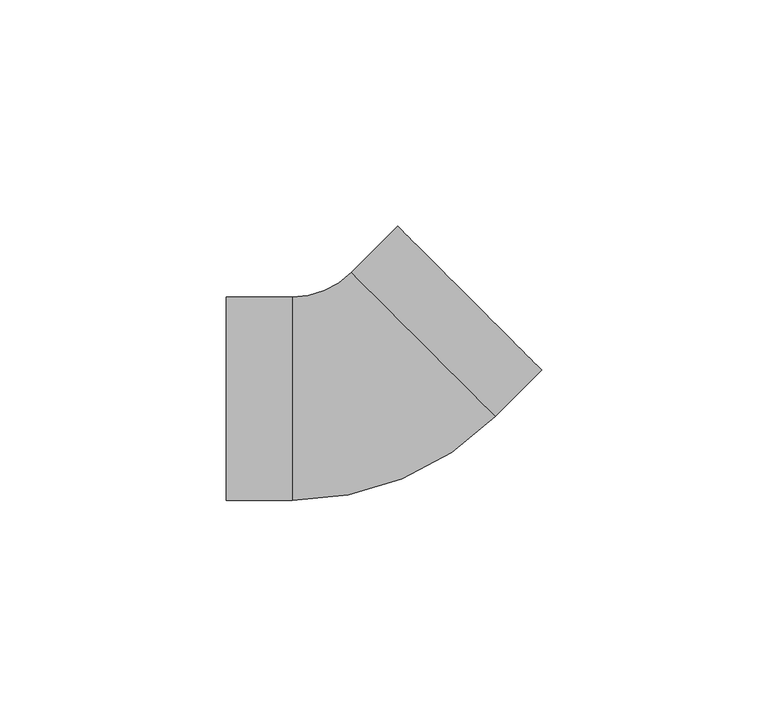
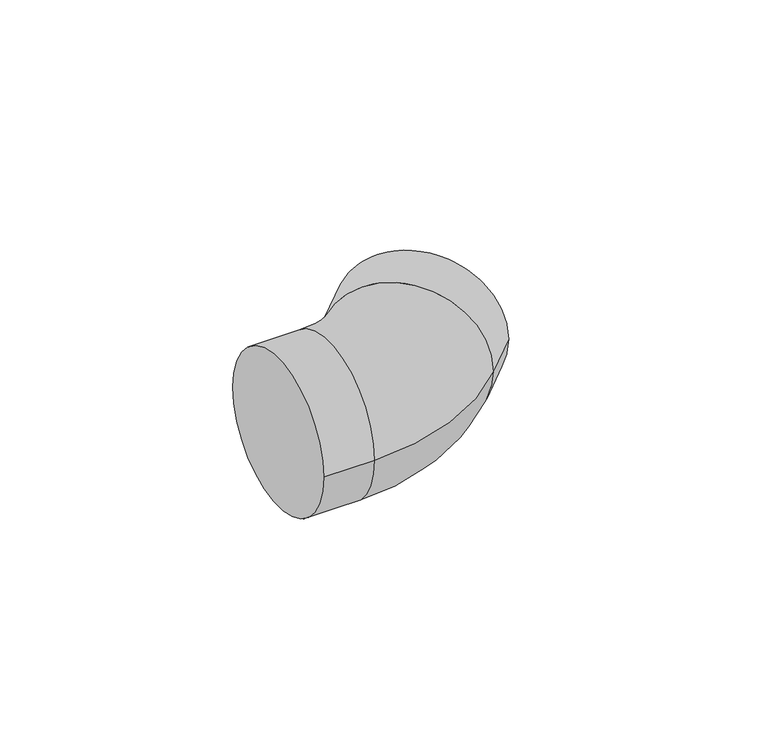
"""IFC4 building model written with IfcOpenShell, lengths in millimetres: pipe fitting geometry, PipeFitting_HTA_CPVC_Elbows : 32mm x 45°."""

from ifc_helpers import new_model, si_unit, point, frame, origin, place, context, project, spatial, circle_curve, ellipse_curve, trimmed, source, transform, mapped, element, save
from ifc_brep_helpers import plane_surface, cylinder_surface, revolved_surface, advanced_brep


def pipe_fitting_c059fd9e(model_context):
    return source(origin(), model_context, "Body", "AdvancedBrep", [
        advanced_brep(
        [(-31.5, -22.5, 0.0), (-31.5, 22.5, 0.0), (-16.9827561, -22.5, 0.0), (-16.9827561, 22.5, 0.0), (-3.9012806, 27.9185245, 0.0), (27.9185245, -3.9012806, 0.0), (38.1837662, 6.363961, 0.0), (6.363961, 38.1837662, 0.0)],
        [
            (0, 1, circle_curve(frame((-31.5, 0.0, 0.0), z_axis=(-1.0, 0.0, 0.0), x_axis=(0.0, 1.0, 0.0)), 22.5)),
            (1, 0, circle_curve(frame((-31.5, 0.0, 0.0), z_axis=(-1.0, 0.0, 0.0), x_axis=(0.0, 1.0, 0.0)), 22.5)),
            (0, 2),
            (2, 3, circle_curve(frame((-16.9827561, 0.0, 0.0), z_axis=(-1.0, 0.0, 0.0), x_axis=(0.0, 1.0, 0.0)), 22.5)),
            (3, 1),
            (3, 2, circle_curve(frame((-16.9827561, 0.0, 0.0), z_axis=(-1.0, 0.0, 0.0), x_axis=(0.0, 1.0, 0.0)), 22.5)),
            (4, 3, circle_curve(frame((-16.9827561, 41.0, 0.0), z_axis=(0.0, 0.0, -1.0), x_axis=(0.0, -1.0, 0.0)), 18.5)),
            (2, 5, circle_curve(frame((-16.9827561, 41.0, 0.0), z_axis=(0.0, 0.0, 1.0), x_axis=(0.0, -1.0, 0.0)), 63.5)),
            (5, 4, circle_curve(frame((12.008622, 12.008622, 0.0), z_axis=(-0.7071067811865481, -0.7071067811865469, 0.0), x_axis=(-0.7071067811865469, 0.7071067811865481, 0.0)), 22.5)),
            (4, 5, circle_curve(frame((12.008622, 12.008622, 0.0), z_axis=(-0.707106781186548, -0.707106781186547, 0.0), x_axis=(-0.707106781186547, 0.707106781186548, 0.0)), 22.5)),
            (6, 7, circle_curve(frame((22.2738636, 22.2738636, 0.0), z_axis=(0.7071067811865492, 0.7071067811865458, 0.0), x_axis=(-0.7071067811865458, 0.7071067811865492, 0.0)), 22.5)),
            (7, 6, circle_curve(frame((22.2738636, 22.2738636, 0.0), z_axis=(0.7071067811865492, 0.7071067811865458, 0.0), x_axis=(-0.7071067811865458, 0.7071067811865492, 0.0)), 22.5)),
            (5, 6),
            (7, 4),
        ],
        [
            plane_surface(frame((-31.5, 0.0, 0.0), z_axis=(-1.0, 0.0, 0.0), x_axis=(0.0, 0.0, 1.0))),
            cylinder_surface(frame((-31.5, 0.0, 0.0), z_axis=(-1.0, 0.0, 0.0), x_axis=(0.0, 1.0, 0.0)), 22.5),
            revolved_surface(trimmed(ellipse_curve(frame((-16.9827561, 0.0, 0.0), z_axis=(-1.0, 0.0, 0.0), x_axis=(0.0, 1.0, 0.0)), 22.5, 22.5), [point((-16.9827561, -22.5, 0.0))], [point((-16.9827561, 22.5, 0.0))], True, "CARTESIAN"), (-16.9827561, 41.0, 0.0), (0.0, 0.0, 1.0)),
            revolved_surface(trimmed(ellipse_curve(frame((-16.9827561, 0.0, 0.0), z_axis=(-1.0, 0.0, 0.0), x_axis=(0.0, 1.0, 0.0)), 22.5, 22.5), [point((-16.9827561, 22.5, 0.0))], [point((-16.9827561, -22.5, 0.0))], True, "CARTESIAN"), (-16.9827561, 41.0, 0.0), (0.0, 0.0, 1.0)),
            plane_surface(frame((22.2738636, 22.2738636, 0.0), z_axis=(0.7071067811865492, 0.7071067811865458, 0.0), x_axis=(0.0, 0.0, 1.0))),
            cylinder_surface(frame((12.008622, 12.008622, 0.0), z_axis=(-0.7071067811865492, -0.7071067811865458, 0.0), x_axis=(-0.7071067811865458, 0.7071067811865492, 0.0)), 22.5),
        ],
        [
            (0, [[1, 2]]),
            (1, [[-1, 3, 4, 5]]),
            (1, [[-2, -5, 6, -3]]),
            (2, [[7, -4, 8, 9]]),
            (3, [[-8, -6, -7, 10]]),
            (4, [[11, 12]]),
            (5, [[-9, 13, -12, 14]]),
            (5, [[-10, -14, -11, -13]]),
        ],
    ),
    ])


if __name__ == "__main__":
    model = new_model("IFC4")
    model_context = context("Model", 3, world=origin())
    ifc_project = project(units=[si_unit("LENGTHUNIT", "METRE", prefix="MILLI")], contexts=[model_context])
    site = spatial("IfcSite", under=ifc_project)
    building = spatial("IfcBuilding", under=site)
    placement = place(None, origin())
    pipe_fitting_shape = pipe_fitting_c059fd9e(model_context)
    element("IfcPipeFitting", 1, ObjectType="PipeFitting_HTA_CPVC_Elbows : 32mm x 45°", at=placement, inside=building, context=model_context, shape_type="MappedRepresentation", body=[
        mapped(pipe_fitting_shape, transform((0.0, 0.0, 0.0), x_axis=(1.0, 0.0, 0.0), y_axis=(0.0, 1.0, 0.0), z_axis=(0.0, 0.0, 1.0))),
    ])
    save(model, "model.ifc")
